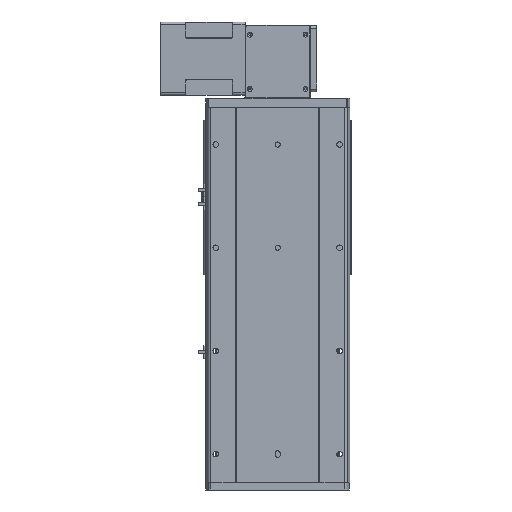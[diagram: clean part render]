
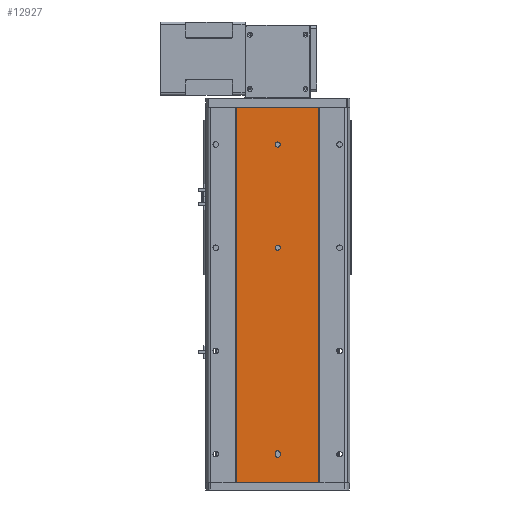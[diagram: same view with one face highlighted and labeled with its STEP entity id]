
A CAD part, front view. The second image highlights one B-rep face of the part: STEP entity #12927.
In plain terms, the highlighted planar face has unit normal (0, -1, 0).
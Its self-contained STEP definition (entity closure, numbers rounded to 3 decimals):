
#93 = EDGE_CURVE ( 'NONE', #39766, #6482, #21912, .T. ) ;
#971 = DIRECTION ( 'NONE',  ( 0., 1., 0. ) ) ;
#1495 = EDGE_CURVE ( 'NONE', #33711, #16899, #13584, .T. ) ;
#1633 = EDGE_CURVE ( 'NONE', #19815, #36865, #38661, .T. ) ;
#2010 = CARTESIAN_POINT ( 'NONE',  ( 0., 1.5, -271.5 ) ) ;
#2156 = DIRECTION ( 'NONE',  ( 1., 0., 0. ) ) ;
#2723 = LINE ( 'NONE', #20562, #13521 ) ;
#3164 = DIRECTION ( 'NONE',  ( 0., 0., 1. ) ) ;
#3317 = CIRCLE ( 'NONE', #4744, 5. ) ;
#3749 = FACE_OUTER_BOUND ( 'NONE', #31614, .T. ) ;
#3914 = CIRCLE ( 'NONE', #20318, 5. ) ;
#4715 = DIRECTION ( 'NONE',  ( 0., 0., 1. ) ) ;
#4744 = AXIS2_PLACEMENT_3D ( 'NONE', #2010, #22208, #2156 ) ;
#5298 = CARTESIAN_POINT ( 'NONE',  ( 0., 1.5, -673. ) ) ;
#5726 = DIRECTION ( 'NONE',  ( 0., 1., 0. ) ) ;
#6482 = VERTEX_POINT ( 'NONE', #30117 ) ;
#7113 = EDGE_CURVE ( 'NONE', #38479, #16729, #26286, .T. ) ;
#7241 = AXIS2_PLACEMENT_3D ( 'NONE', #5298, #5726, #15326 ) ;
#7243 = DIRECTION ( 'NONE',  ( 1., 0., 0. ) ) ;
#7532 = ORIENTED_EDGE ( 'NONE', *, *, #18208, .T. ) ;
#7812 = VERTEX_POINT ( 'NONE', #29688 ) ;
#7852 = LINE ( 'NONE', #14110, #28305 ) ;
#8264 = LINE ( 'NONE', #9291, #42045 ) ;
#9291 = CARTESIAN_POINT ( 'NONE',  ( 5., 1.5, -727. ) ) ;
#9403 = CARTESIAN_POINT ( 'NONE',  ( 0., 1.5, -276.5 ) ) ;
#9446 = DIRECTION ( 'NONE',  ( 0., 0., -1. ) ) ;
#9528 = DIRECTION ( 'NONE',  ( 0., 1., 0. ) ) ;
#9727 = LINE ( 'NONE', #21249, #19447 ) ;
#10463 = CARTESIAN_POINT ( 'NONE',  ( 0., 1.5, -678. ) ) ;
#10483 = CARTESIAN_POINT ( 'NONE',  ( -79., 1.5, 0. ) ) ;
#10621 = CARTESIAN_POINT ( 'NONE',  ( 0., 1.5, -670. ) ) ;
#11250 = ORIENTED_EDGE ( 'NONE', *, *, #28176, .T. ) ;
#11920 = EDGE_CURVE ( 'NONE', #16899, #33711, #3914, .T. ) ;
#12166 = DIRECTION ( 'NONE',  ( 1., 0., 0. ) ) ;
#12460 = FACE_BOUND ( 'NONE', #29595, .T. ) ;
#12927 = ADVANCED_FACE ( 'NONE', ( #15010, #3749, #41117, #12460 ), #32409, .T. ) ;
#13126 = CARTESIAN_POINT ( 'NONE',  ( -79., 1.5, -727. ) ) ;
#13274 = CARTESIAN_POINT ( 'NONE',  ( 0., 1.5, -266.5 ) ) ;
#13509 = DIRECTION ( 'NONE',  ( 0., 1., 0. ) ) ;
#13521 = VECTOR ( 'NONE', #23574, 1000. ) ;
#13584 = CIRCLE ( 'NONE', #15531, 5. ) ;
#14110 = CARTESIAN_POINT ( 'NONE',  ( -79., 1.5, -727. ) ) ;
#14122 = VECTOR ( 'NONE', #3164, 1000. ) ;
#14252 = DIRECTION ( 'NONE',  ( 1., 0., 0. ) ) ;
#15010 = FACE_BOUND ( 'NONE', #19021, .T. ) ;
#15023 = DIRECTION ( 'NONE',  ( 0., 1., 0. ) ) ;
#15326 = DIRECTION ( 'NONE',  ( 1., 0., 0. ) ) ;
#15531 = AXIS2_PLACEMENT_3D ( 'NONE', #17322, #971, #33760 ) ;
#15958 = ORIENTED_EDGE ( 'NONE', *, *, #35162, .T. ) ;
#15965 = CARTESIAN_POINT ( 'NONE',  ( 0., 1.5, -71.5 ) ) ;
#16011 = EDGE_CURVE ( 'NONE', #31560, #21519, #34041, .T. ) ;
#16515 = CIRCLE ( 'NONE', #17420, 5. ) ;
#16729 = VERTEX_POINT ( 'NONE', #32571 ) ;
#16899 = VERTEX_POINT ( 'NONE', #33135 ) ;
#17322 = CARTESIAN_POINT ( 'NONE',  ( 0., 1.5, -71.5 ) ) ;
#17420 = AXIS2_PLACEMENT_3D ( 'NONE', #10621, #13509, #29906 ) ;
#17543 = VECTOR ( 'NONE', #4715, 1000. ) ;
#18073 = CARTESIAN_POINT ( 'NONE',  ( -79., 1.5, -727. ) ) ;
#18208 = EDGE_CURVE ( 'NONE', #25512, #36412, #8264, .T. ) ;
#18768 = ORIENTED_EDGE ( 'NONE', *, *, #93, .T. ) ;
#19021 = EDGE_LOOP ( 'NONE', ( #20040, #29221 ) ) ;
#19447 = VECTOR ( 'NONE', #38400, 1000. ) ;
#19461 = ORIENTED_EDGE ( 'NONE', *, *, #23768, .T. ) ;
#19815 = VERTEX_POINT ( 'NONE', #9403 ) ;
#20040 = ORIENTED_EDGE ( 'NONE', *, *, #1495, .T. ) ;
#20318 = AXIS2_PLACEMENT_3D ( 'NONE', #15965, #9528, #23001 ) ;
#20562 = CARTESIAN_POINT ( 'NONE',  ( -5., 1.5, -727. ) ) ;
#21219 = CARTESIAN_POINT ( 'NONE',  ( 79., 1.5, -727. ) ) ;
#21249 = CARTESIAN_POINT ( 'NONE',  ( -79., 1.5, 0. ) ) ;
#21465 = EDGE_CURVE ( 'NONE', #7812, #25512, #16515, .T. ) ;
#21501 = ORIENTED_EDGE ( 'NONE', *, *, #1633, .T. ) ;
#21519 = VERTEX_POINT ( 'NONE', #10483 ) ;
#21764 = CARTESIAN_POINT ( 'NONE',  ( 0., 1.5, -271.5 ) ) ;
#21912 = CIRCLE ( 'NONE', #7241, 5. ) ;
#22208 = DIRECTION ( 'NONE',  ( 0., 1., 0. ) ) ;
#22270 = AXIS2_PLACEMENT_3D ( 'NONE', #13126, #22580, #32967 ) ;
#22580 = DIRECTION ( 'NONE',  ( 0., -1., 0. ) ) ;
#22674 = CIRCLE ( 'NONE', #33111, 5. ) ;
#23001 = DIRECTION ( 'NONE',  ( 1., 0., 0. ) ) ;
#23367 = ORIENTED_EDGE ( 'NONE', *, *, #21465, .T. ) ;
#23574 = DIRECTION ( 'NONE',  ( 0., 0., 1. ) ) ;
#23768 = EDGE_CURVE ( 'NONE', #36412, #39766, #22674, .T. ) ;
#24674 = ORIENTED_EDGE ( 'NONE', *, *, #16011, .F. ) ;
#25512 = VERTEX_POINT ( 'NONE', #40483 ) ;
#26286 = LINE ( 'NONE', #21219, #17543 ) ;
#28176 = EDGE_CURVE ( 'NONE', #36865, #19815, #3317, .T. ) ;
#28305 = VECTOR ( 'NONE', #7243, 1000. ) ;
#29221 = ORIENTED_EDGE ( 'NONE', *, *, #11920, .T. ) ;
#29428 = ORIENTED_EDGE ( 'NONE', *, *, #7113, .T. ) ;
#29595 = EDGE_LOOP ( 'NONE', ( #36822, #23367, #7532, #19461, #18768 ) ) ;
#29688 = CARTESIAN_POINT ( 'NONE',  ( -5., 1.5, -670. ) ) ;
#29906 = DIRECTION ( 'NONE',  ( 1., 0., 0. ) ) ;
#30117 = CARTESIAN_POINT ( 'NONE',  ( -5., 1.5, -673. ) ) ;
#31560 = VERTEX_POINT ( 'NONE', #18073 ) ;
#31614 = EDGE_LOOP ( 'NONE', ( #34881, #24674, #15958, #29428 ) ) ;
#32211 = CARTESIAN_POINT ( 'NONE',  ( 0., 1.5, -76.5 ) ) ;
#32409 = PLANE ( 'NONE',  #22270 ) ;
#32571 = CARTESIAN_POINT ( 'NONE',  ( 79., 1.5, 0. ) ) ;
#32967 = DIRECTION ( 'NONE',  ( 1., 0., 0. ) ) ;
#33111 = AXIS2_PLACEMENT_3D ( 'NONE', #36838, #36705, #14252 ) ;
#33135 = CARTESIAN_POINT ( 'NONE',  ( 0., 1.5, -66.5 ) ) ;
#33711 = VERTEX_POINT ( 'NONE', #32211 ) ;
#33760 = DIRECTION ( 'NONE',  ( 1., 0., 0. ) ) ;
#34041 = LINE ( 'NONE', #39246, #14122 ) ;
#34881 = ORIENTED_EDGE ( 'NONE', *, *, #36919, .F. ) ;
#35162 = EDGE_CURVE ( 'NONE', #31560, #38479, #7852, .T. ) ;
#36412 = VERTEX_POINT ( 'NONE', #36592 ) ;
#36592 = CARTESIAN_POINT ( 'NONE',  ( 5., 1.5, -673. ) ) ;
#36630 = AXIS2_PLACEMENT_3D ( 'NONE', #21764, #15023, #12166 ) ;
#36705 = DIRECTION ( 'NONE',  ( 0., 1., 0. ) ) ;
#36822 = ORIENTED_EDGE ( 'NONE', *, *, #40365, .T. ) ;
#36838 = CARTESIAN_POINT ( 'NONE',  ( 0., 1.5, -673. ) ) ;
#36865 = VERTEX_POINT ( 'NONE', #13274 ) ;
#36919 = EDGE_CURVE ( 'NONE', #21519, #16729, #9727, .T. ) ;
#38400 = DIRECTION ( 'NONE',  ( 1., 0., 0. ) ) ;
#38479 = VERTEX_POINT ( 'NONE', #41398 ) ;
#38661 = CIRCLE ( 'NONE', #36630, 5. ) ;
#39246 = CARTESIAN_POINT ( 'NONE',  ( -79., 1.5, -727. ) ) ;
#39659 = EDGE_LOOP ( 'NONE', ( #21501, #11250 ) ) ;
#39766 = VERTEX_POINT ( 'NONE', #10463 ) ;
#40365 = EDGE_CURVE ( 'NONE', #6482, #7812, #2723, .T. ) ;
#40483 = CARTESIAN_POINT ( 'NONE',  ( 5., 1.5, -670. ) ) ;
#41117 = FACE_BOUND ( 'NONE', #39659, .T. ) ;
#41398 = CARTESIAN_POINT ( 'NONE',  ( 79., 1.5, -727. ) ) ;
#42045 = VECTOR ( 'NONE', #9446, 1000. ) ;
